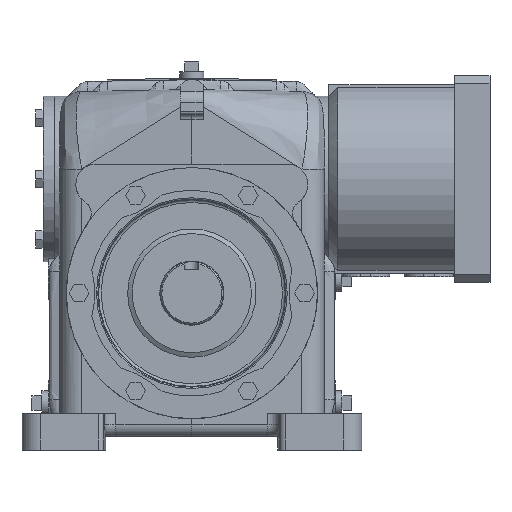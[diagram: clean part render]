
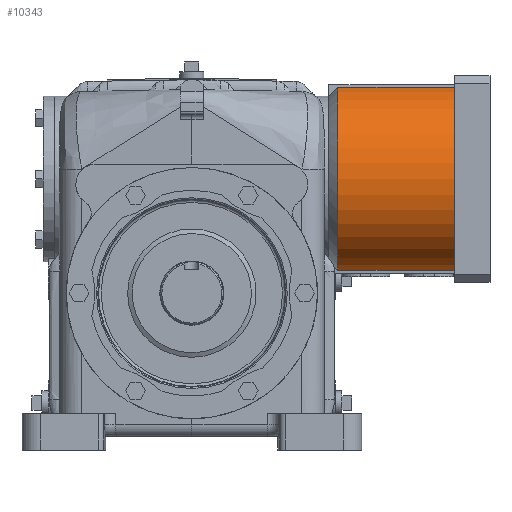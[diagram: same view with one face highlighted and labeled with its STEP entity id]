
A CAD part, front view. The second image highlights one B-rep face of the part: STEP entity #10343.
In plain terms, the highlighted cylindrical face has radius 104.775 mm (diameter 209.55 mm), a partial arc.
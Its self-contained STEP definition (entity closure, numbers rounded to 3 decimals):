
#235=CYLINDRICAL_SURFACE('',#12471,104.775);
#1475=LINE('',#28648,#2232);
#1479=LINE('',#28655,#2236);
#2232=VECTOR('',#14858,1000.);
#2236=VECTOR('',#14868,1000.);
#5042=ORIENTED_EDGE('',*,*,#6559,.F.);
#5043=ORIENTED_EDGE('',*,*,#6599,.F.);
#5044=ORIENTED_EDGE('',*,*,#6575,.T.);
#5045=ORIENTED_EDGE('',*,*,#6603,.T.);
#6559=EDGE_CURVE('',#7601,#7602,#7926,.T.);
#6575=EDGE_CURVE('',#7617,#7616,#7933,.T.);
#6599=EDGE_CURVE('',#7617,#7601,#1475,.T.);
#6603=EDGE_CURVE('',#7616,#7602,#1479,.T.);
#7601=VERTEX_POINT('',#28552);
#7602=VERTEX_POINT('',#28554);
#7616=VERTEX_POINT('',#28591);
#7617=VERTEX_POINT('',#28593);
#7926=CIRCLE('',#12437,104.775);
#7933=CIRCLE('',#12449,104.775);
#8639=EDGE_LOOP('',(#5042,#5043,#5044,#5045));
#9387=FACE_BOUND('',#8639,.T.);
#10343=ADVANCED_FACE('',(#9387),#235,.T.);
#12437=AXIS2_PLACEMENT_3D('',#28553,#14775,#14776);
#12449=AXIS2_PLACEMENT_3D('',#28592,#14807,#14808);
#12471=AXIS2_PLACEMENT_3D('',#28657,#14871,#14872);
#14775=DIRECTION('',(1.,0.,0.));
#14776=DIRECTION('',(0.,0.,-1.));
#14807=DIRECTION('',(1.,0.,0.));
#14808=DIRECTION('',(0.,0.,-1.));
#14858=DIRECTION('',(1.,0.,0.));
#14868=DIRECTION('',(1.,0.,0.));
#14871=DIRECTION('',(1.,0.,0.));
#14872=DIRECTION('',(0.,0.,-1.));
#28552=CARTESIAN_POINT('',(139.852,-24.875,101.779));
#28553=CARTESIAN_POINT('',(139.852,0.,0.));
#28554=CARTESIAN_POINT('',(139.852,-24.868,-101.781));
#28591=CARTESIAN_POINT('',(9.804,-24.868,-101.781));
#28592=CARTESIAN_POINT('',(9.804,0.,0.));
#28593=CARTESIAN_POINT('',(9.804,-24.875,101.779));
#28648=CARTESIAN_POINT('',(122.103,-24.875,101.779));
#28655=CARTESIAN_POINT('',(122.103,-24.868,-101.781));
#28657=CARTESIAN_POINT('',(122.103,0.,0.));
